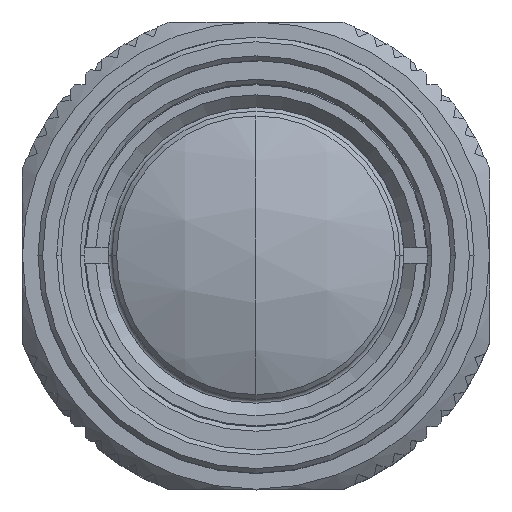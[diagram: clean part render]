
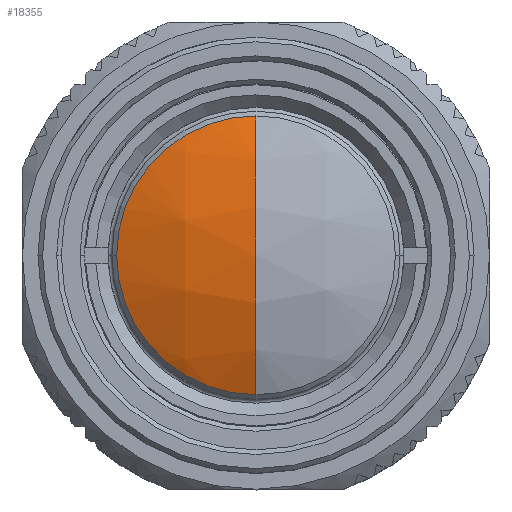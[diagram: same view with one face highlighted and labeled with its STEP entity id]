
A CAD part, top view. The second image highlights one B-rep face of the part: STEP entity #18355.
In plain terms, the highlighted spherical face has radius 21.28 mm.
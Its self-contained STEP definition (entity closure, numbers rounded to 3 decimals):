
#923 = CARTESIAN_POINT ( 'NONE',  ( 0., 0., 57.088 ) ) ;
#1246 = CARTESIAN_POINT ( 'NONE',  ( 0., 8.95, 57.088 ) ) ;
#1616 = CARTESIAN_POINT ( 'NONE',  ( -8.95, 0., 57.088 ) ) ;
#1714 = CARTESIAN_POINT ( 'NONE',  ( 0., 0., 59.062 ) ) ;
#1987 = DIRECTION ( 'NONE',  ( 0., 0., -1. ) ) ;
#2300 = DIRECTION ( 'NONE',  ( 0., 0., 1. ) ) ;
#2579 = CIRCLE ( 'NONE', #15809, 21.28 ) ;
#4057 = DIRECTION ( 'NONE',  ( -1., 0., 0. ) ) ;
#4193 = AXIS2_PLACEMENT_3D ( 'NONE', #5142, #10877, #1987 ) ;
#4589 = DIRECTION ( 'NONE',  ( 1., 0., 0. ) ) ;
#5139 = VERTEX_POINT ( 'NONE', #1246 ) ;
#5142 = CARTESIAN_POINT ( 'NONE',  ( 0., 0., 37.782 ) ) ;
#5616 = CARTESIAN_POINT ( 'NONE',  ( 0., 0., 37.782 ) ) ;
#6755 = DIRECTION ( 'NONE',  ( 1., 0., 0. ) ) ;
#7901 = ORIENTED_EDGE ( 'NONE', *, *, #17356, .F. ) ;
#8285 = CIRCLE ( 'NONE', #4193, 21.28 ) ;
#8447 = EDGE_CURVE ( 'NONE', #5139, #17138, #14467, .T. ) ;
#8678 = DIRECTION ( 'NONE',  ( 0., -1., 0. ) ) ;
#9504 = DIRECTION ( 'NONE',  ( 0., 0., 1. ) ) ;
#9867 = DIRECTION ( 'NONE',  ( 0., 1., 0. ) ) ;
#9892 = AXIS2_PLACEMENT_3D ( 'NONE', #18973, #4057, #9867 ) ;
#10265 = DIRECTION ( 'NONE',  ( -1., 0., 0. ) ) ;
#10877 = DIRECTION ( 'NONE',  ( 1., 0., 0. ) ) ;
#10996 = CARTESIAN_POINT ( 'NONE',  ( 0., 0., 57.088 ) ) ;
#11259 = CIRCLE ( 'NONE', #13788, 8.95 ) ;
#11353 = ORIENTED_EDGE ( 'NONE', *, *, #8447, .T. ) ;
#11463 = FACE_OUTER_BOUND ( 'NONE', #18795, .T. ) ;
#11502 = CARTESIAN_POINT ( 'NONE',  ( 0., -8.95, 57.088 ) ) ;
#11945 = VERTEX_POINT ( 'NONE', #11502 ) ;
#12323 = VERTEX_POINT ( 'NONE', #1714 ) ;
#12970 = EDGE_CURVE ( 'NONE', #17138, #11945, #11259, .T. ) ;
#13209 = AXIS2_PLACEMENT_3D ( 'NONE', #923, #2300, #6755 ) ;
#13446 = EDGE_CURVE ( 'NONE', #11945, #12323, #2579, .T. ) ;
#13788 = AXIS2_PLACEMENT_3D ( 'NONE', #10996, #9504, #4589 ) ;
#14467 = CIRCLE ( 'NONE', #13209, 8.95 ) ;
#15809 = AXIS2_PLACEMENT_3D ( 'NONE', #5616, #10265, #8678 ) ;
#17138 = VERTEX_POINT ( 'NONE', #1616 ) ;
#17356 = EDGE_CURVE ( 'NONE', #5139, #12323, #8285, .T. ) ;
#17591 = SPHERICAL_SURFACE ( 'NONE', #9892, 21.28 ) ;
#18355 = ADVANCED_FACE ( 'NONE', ( #11463 ), #17591, .T. ) ;
#18520 = ORIENTED_EDGE ( 'NONE', *, *, #12970, .T. ) ;
#18631 = ORIENTED_EDGE ( 'NONE', *, *, #13446, .T. ) ;
#18795 = EDGE_LOOP ( 'NONE', ( #11353, #18520, #18631, #7901 ) ) ;
#18973 = CARTESIAN_POINT ( 'NONE',  ( 0., 0., 37.782 ) ) ;
